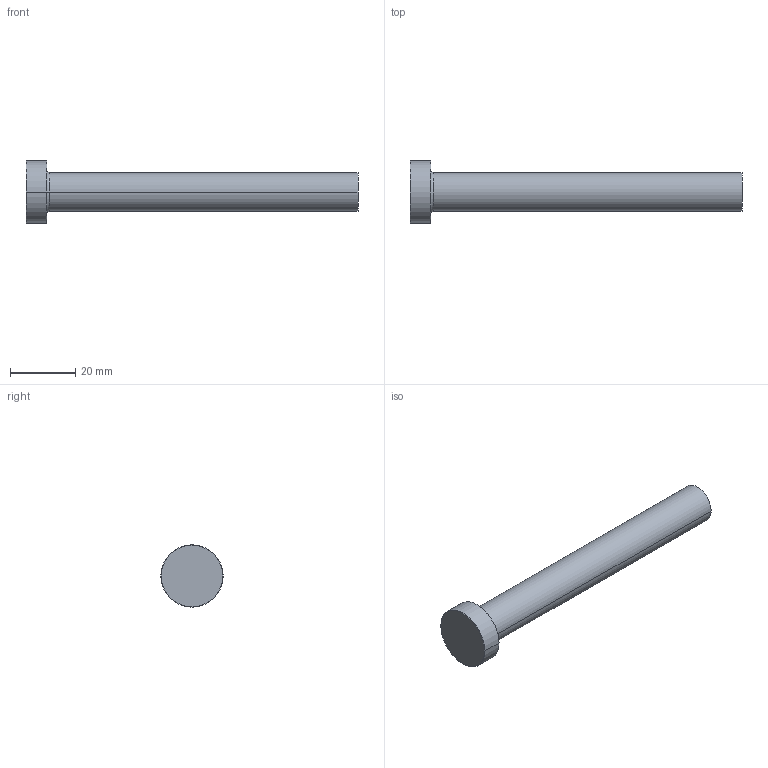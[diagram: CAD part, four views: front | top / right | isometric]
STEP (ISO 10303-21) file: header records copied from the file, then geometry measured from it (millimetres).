
FILE_DESCRIPTION (( 'STEP AP214' ), '1' );
FILE_NAME ('P31-4.STEP', '2020-03-12T10:35:13', ( '' ), ( '' ), 'SwSTEP 2.0', 'SolidWorks 2018', '' );
FILE_SCHEMA (( 'AUTOMOTIVE_DESIGN' ));
Length unit declared in the file: inch
Products named in the file (1): P31-4
Bounding box: 101.6 x 19.05 x 19.05 mm (x, y, z)
Volume: 12405.4 mm3; surface area: 4491.5 mm2
Topology: 1 solids, 1 shells, 13 faces, 24 edges, 14 vertices
Faces by surface type: cone 4, cylinder 4, plane 3, torus 2
Entity records: 366 total; most frequent: DIRECTION 68, CARTESIAN_POINT 52, ORIENTED_EDGE 48, AXIS2_PLACEMENT_3D 30, EDGE_CURVE 24, CIRCLE 16, EDGE_LOOP 14, VERTEX_POINT 14
